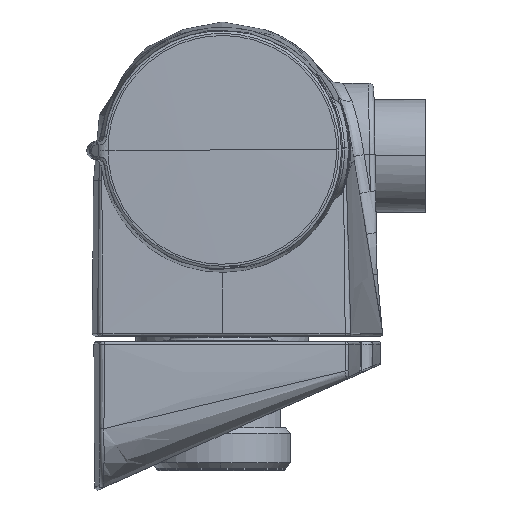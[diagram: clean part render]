
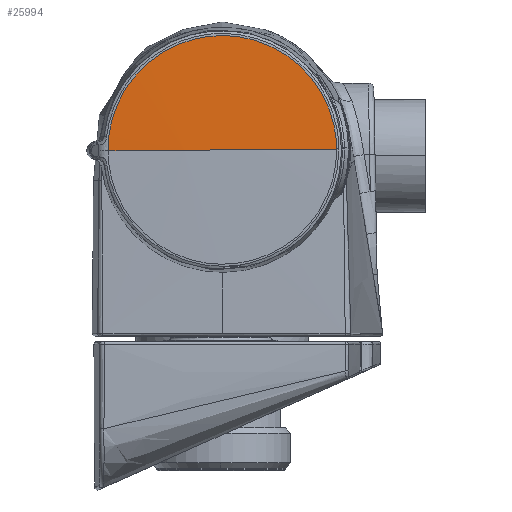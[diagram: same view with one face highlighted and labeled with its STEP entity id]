
A CAD part, left-side view. The second image highlights one B-rep face of the part: STEP entity #25994.
In plain terms, the highlighted spherical face has radius 1000 mm.
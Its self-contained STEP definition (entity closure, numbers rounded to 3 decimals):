
#286 = CARTESIAN_POINT ( 'NONE',  ( -171.044, -21.066, 21.109 ) ) ;
#409 = CARTESIAN_POINT ( 'NONE',  ( -171.044, -21.237, -0.134 ) ) ;
#2864 = CARTESIAN_POINT ( 'NONE',  ( -171.044, 21.237, -0.466 ) ) ;
#3306 = SPHERICAL_SURFACE ( 'NONE', #11294, 1000. ) ;
#3371 = DIRECTION ( 'NONE',  ( 0., -1., 0.008 ) ) ;
#3669 = CARTESIAN_POINT ( 'NONE',  ( -171.044, -21.237, -0.128 ) ) ;
#3672 = DIRECTION ( 'NONE',  ( -1., 0., 0. ) ) ;
#4575 =( BOUNDED_CURVE ( )  B_SPLINE_CURVE ( 2, ( #14991, #26713, #409 ),
 .UNSPECIFIED., .F., .T. ) 
 B_SPLINE_CURVE_WITH_KNOTS ( ( 3, 3 ),
 ( 0., 0. ),
 .UNSPECIFIED. ) 
 CURVE ( )  GEOMETRIC_REPRESENTATION_ITEM ( )  RATIONAL_B_SPLINE_CURVE ( ( 1., 1., 1. ) ) 
 REPRESENTATION_ITEM ( '' )  );
#6551 = CARTESIAN_POINT ( 'NONE',  ( -171.044, -21.237, -0.134 ) ) ;
#11294 = AXIS2_PLACEMENT_3D ( 'NONE', #20987, #12203, #3672 ) ;
#12203 = DIRECTION ( 'NONE',  ( 0., -0.008, -1. ) ) ;
#12212 = EDGE_CURVE ( 'NONE', #36725, #25048, #4575, .T. ) ;
#12999 = FACE_OUTER_BOUND ( 'NONE', #15340, .T. ) ;
#14866 = EDGE_CURVE ( 'NONE', #23595, #25048, #22844, .T. ) ;
#14991 = CARTESIAN_POINT ( 'NONE',  ( -171.044, -21.237, -0.128 ) ) ;
#15340 = EDGE_LOOP ( 'NONE', ( #31667, #37058, #32713 ) ) ;
#20987 = CARTESIAN_POINT ( 'NONE',  ( 828.73, 0., -0.3 ) ) ;
#21210 = CARTESIAN_POINT ( 'NONE',  ( -171.044, 21.404, 20.766 ) ) ;
#21334 = CARTESIAN_POINT ( 'NONE',  ( 828.73, 0., -0.3 ) ) ;
#21341 = CARTESIAN_POINT ( 'NONE',  ( -171.044, 0.172, 20.937 ) ) ;
#22069 = EDGE_CURVE ( 'NONE', #23595, #36725, #34120, .T. ) ;
#22844 = CIRCLE ( 'NONE', #26686, 1000. ) ;
#23595 = VERTEX_POINT ( 'NONE', #2864 ) ;
#24295 = CARTESIAN_POINT ( 'NONE',  ( -171.044, 21.237, -0.466 ) ) ;
#25048 = VERTEX_POINT ( 'NONE', #6551 ) ;
#25994 = ADVANCED_FACE ( 'NONE', ( #12999 ), #3306, .T. ) ;
#26686 = AXIS2_PLACEMENT_3D ( 'NONE', #21334, #36094, #3371 ) ;
#26713 = CARTESIAN_POINT ( 'NONE',  ( -171.044, -21.237, -0.131 ) ) ;
#31667 = ORIENTED_EDGE ( 'NONE', *, *, #22069, .F. ) ;
#32713 = ORIENTED_EDGE ( 'NONE', *, *, #12212, .F. ) ;
#32989 = CARTESIAN_POINT ( 'NONE',  ( -171.044, -21.237, -0.128 ) ) ;
#34120 =( BOUNDED_CURVE ( )  B_SPLINE_CURVE ( 2, ( #24295, #21210, #21341, #286, #32989 ),
 .UNSPECIFIED., .F., .F. ) 
 B_SPLINE_CURVE_WITH_KNOTS ( ( 3, 2, 3 ),
 ( 0., 0.5, 1. ),
 .UNSPECIFIED. ) 
 CURVE ( )  GEOMETRIC_REPRESENTATION_ITEM ( )  RATIONAL_B_SPLINE_CURVE ( ( 1., 0.707, 1., 0.707, 1. ) ) 
 REPRESENTATION_ITEM ( '' )  );
#36094 = DIRECTION ( 'NONE',  ( 0., 0.008, 1. ) ) ;
#36725 = VERTEX_POINT ( 'NONE', #3669 ) ;
#37058 = ORIENTED_EDGE ( 'NONE', *, *, #14866, .T. ) ;
